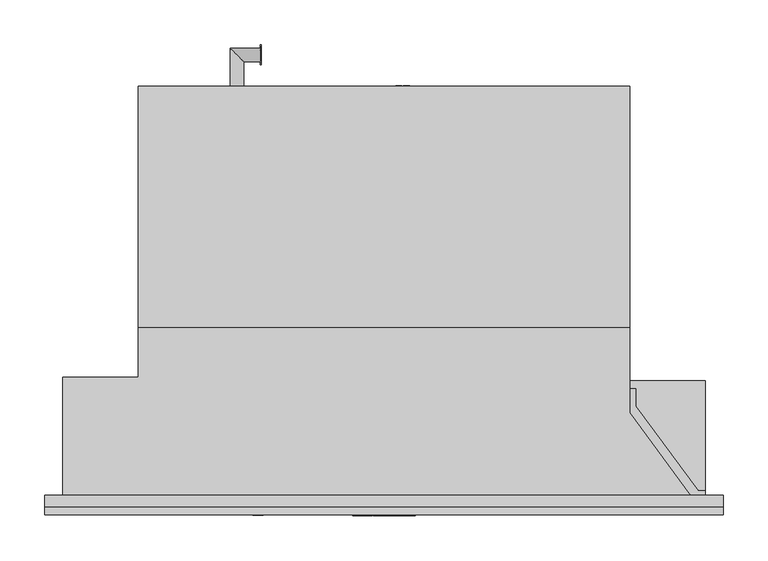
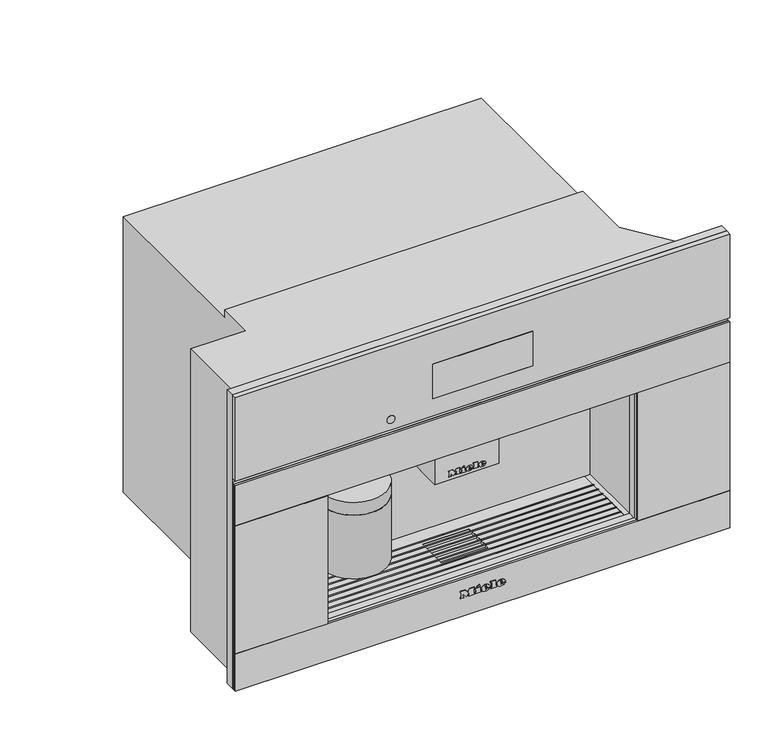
"""IFC4 building model written with IfcOpenShell, lengths in millimetres: proxy geometry, 12579040_USA_CVA7875_OBSWMATT : 29787521_USA_12579040_CVA7875_OBSWMATT."""

from ifc_helpers import new_model, si_unit, point, frame, frame_2d, origin, place, context, project, spatial, polyline, circle_curve, ellipse_curve, trimmed, segment, composite_curve, outline, extrude, faceted_brep, source, transform, mapped, element, save
from ifc_brep_helpers import plane_surface, cylinder_surface, revolved_surface, extruded_surface, advanced_brep


def specialty_equipment_d32c7e56(model_context):
    return source(origin(), model_context, "Body", "SolidModel", [
        extrude(outline(composite_curve([segment(trimmed(circle_curve(frame_2d((-14.0, 36.5)), 5.0), [point((-9.0, 36.5))], [point((-19.0, 36.5))], False, "CARTESIAN"), True, "CONTINUOUS"), segment(trimmed(circle_curve(frame_2d((-14.0, 36.5)), 5.0), [point((-19.0, 36.5))], [point((-9.0, 36.5))], False, "CARTESIAN"), True, "CONTINUOUS")], self_intersect=False)), frame((0.0, 0.0, 193.0), z_axis=(0.0, 0.0, 1.0), x_axis=(1.0, 0.0, 0.0)), (0.0, 0.0, 1.0), 5.0),
        extrude(outline(composite_curve([segment(trimmed(circle_curve(frame_2d((14.0, 36.5)), 5.0), [point((19.0, 36.5))], [point((9.0, 36.5))], False, "CARTESIAN"), True, "CONTINUOUS"), segment(trimmed(circle_curve(frame_2d((14.0, 36.5)), 5.0), [point((9.0, 36.5))], [point((19.0, 36.5))], False, "CARTESIAN"), True, "CONTINUOUS")], self_intersect=False)), frame((0.0, 0.0, 193.0), z_axis=(0.0, 0.0, 1.0), x_axis=(1.0, 0.0, 0.0)), (0.0, 0.0, 1.0), 5.0),
        extrude(outline(composite_curve([segment(trimmed(circle_curve(frame_2d((-156.5, 49.5)), 50.0), [point((-106.5, 49.5))], [point((-206.5, 49.5))], False, "CARTESIAN"), True, "CONTINUOUS"), segment(trimmed(circle_curve(frame_2d((-156.5, 49.5)), 50.0), [point((-206.5, 49.5))], [point((-106.5, 49.5))], False, "CARTESIAN"), True, "CONTINUOUS")], self_intersect=False)), frame((0.0, 0.0, 100.0), z_axis=(0.0, 0.0, 1.0), x_axis=(1.0, 0.0, 0.0)), (0.0, 0.0, 1.0), 103.0),
        extrude(outline(polyline([(-49.0, 95.0), (49.0, 95.0), (49.0, 20.0), (-49.0, 20.0), (-49.0, 95.0)])), frame((0.0, 0.0, 198.0), z_axis=(0.0, 0.0, 1.0), x_axis=(1.0, 0.0, 0.0)), (0.0, 0.0, 1.0), 75.0),
        extrude(outline(polyline([(479.0, 378.5), (479.0, -378.5), (4.0, -378.5), (4.0, 378.5), (479.0, 378.5)]), holes=[polyline([(273.0, 237.5), (63.0, 237.5), (63.0, -237.5), (273.0, -237.5), (273.0, 237.5)])]), frame((0.0, -13.0, 0.0), z_axis=(0.0, 1.0, 0.0), x_axis=(0.0, 0.0, 1.0)), (0.0, 0.0, 1.0), 13.0),
        extrude(outline(polyline([(281.0, 118.7), (281.0, 99.0591954), (350.457423, 4.7), (358.5, 4.7), (358.5, 0.0), (341.5, 0.0), (274.0, 91.7), (274.0, 118.7), (281.0, 118.7)])), frame((0.0, 0.0, 45.0), z_axis=(0.0, 0.0, 1.0), x_axis=(1.0, 0.0, 0.0)), (0.0, 0.0, 1.0), 34.0),
        faceted_brep([(-22.0, 400.0, 89.0), (35.0, 400.0, 66.0), (35.0, 456.0, 66.0), (-22.0, 456.0, 89.0), (-358.5, 0.0, 0.0), (-358.5, 0.0, 458.0), (-358.5, 131.7, 458.0), (-358.5, 131.7, 0.0), (237.5, 104.5, 273.0), (237.5, 104.5, 63.0), (237.5, 0.0, 63.0), (237.5, 0.0, 273.0), (229.5, 104.5, 62.0), (-229.5, 104.5, 62.0), (-229.5, 0.0, 62.0), (229.5, 0.0, 62.0), (-36.0, 76.0, 62.0), (36.0, 76.0, 62.0), (36.0, 25.0, 62.0), (-36.0, 25.0, 62.0), (229.5, 0.0, 63.0), (229.5, 104.5, 63.0), (-22.0, 400.0, 133.0), (55.0, 400.0, 133.0), (55.0, 400.0, 66.0), (-22.0, 456.0, 133.0), (55.0, 456.0, 133.0), (55.0, 456.0, 66.0), (358.5, 0.0, 0.0), (358.5, 127.7, 0.0), (358.5, 127.7, 45.0), (358.5, 0.0, 45.0), (-274.0, 131.7, 0.0), (-274.0, 456.0, 0.0), (274.0, 456.0, 0.0), (274.0, 127.7, 0.0), (274.0, 456.0, 446.0), (-274.0, 456.0, 446.0), (274.0, 187.0, 446.0), (-274.0, 187.0, 446.0), (274.0, 187.0, 458.0), (-274.0, 187.0, 458.0), (341.5, 0.0, 458.0), (274.0, 91.7, 458.0), (-274.0, 131.7, 458.0), (341.5, 0.0, 45.0), (-229.5, 0.0, 63.0), (-237.5, 0.0, 63.0), (-237.5, 0.0, 273.0), (-237.5, 104.5, 273.0), (-237.5, 104.5, 63.0), (-229.5, 104.5, 63.0), (36.0, 76.0, 58.0), (-36.0, 76.0, 58.0), (-36.0, 25.0, 58.0), (36.0, 25.0, 58.0), (274.0, 91.7, 45.0), (274.0, 127.7, 45.0)], [[[0, 1, 2, 3]], [[4, 5, 6, 7]], [[8, 9, 10, 11]], [[12, 13, 14, 15], [16, 17, 18, 19]], [[12, 15, 20, 21]], [[22, 23, 24, 1, 0]], [[23, 22, 25, 26]], [[24, 23, 26, 27]], [[1, 24, 27, 2]], [[22, 0, 3, 25]], [[28, 29, 30, 31]], [[28, 4, 7, 32, 33, 34, 35, 29]], [[36, 34, 33, 37], [26, 25, 3, 2, 27]], [[38, 36, 37, 39]], [[40, 38, 39, 41]], [[5, 42, 43, 40, 41, 44, 6]], [[5, 4, 28, 31, 45, 42], [11, 10, 20, 15, 14, 46, 47, 48]], [[8, 49, 50, 51, 13, 12, 21, 9]], [[10, 9, 21, 20]], [[50, 47, 46, 51]], [[50, 49, 48, 47]], [[49, 8, 11, 48]], [[14, 13, 51, 46]], [[52, 53, 54, 55]], [[53, 52, 17, 16]], [[54, 53, 16, 19]], [[55, 54, 19, 18]], [[52, 55, 18, 17]], [[35, 34, 36, 38, 40, 43, 56, 57]], [[29, 35, 57, 30]], [[57, 56, 45, 31, 30]], [[44, 32, 7, 6]], [[32, 44, 41, 39, 37, 33]], [[45, 56, 43, 42]]]),
        extrude(outline(polyline([(491.5420128, 22.0), (488.8025182, 32.045631), (490.0974628, 32.045631), (491.6867131, 25.4433755), (492.1772224, 23.4053092), (492.7020674, 25.207931), (494.6935352, 32.045631), (496.5599232, 32.045631), (498.0069257, 27.0890343), (499.0835937, 23.4053092), (499.5593878, 25.3845144), (501.1633533, 32.045631), (502.4582979, 32.045631), (499.7163507, 22.0), (498.3748077, 22.0), (495.9664069, 29.7500474), (495.630408, 30.8316204), (495.2527159, 29.5293182), (493.0576866, 22.0), (491.5420128, 22.0)])), frame((-138.0, 0.0, 0.0), z_axis=(1.0, 0.0, 0.0), x_axis=(0.0, 1.0, 0.0)), (0.0, 0.0, 1.0), 1.0),
        extrude(outline(polyline([(480.48348, 22.0), (480.48348, 32.045631), (481.7391839, 32.045631), (481.7391839, 27.128275), (486.8895318, 32.045631), (488.6455552, 32.045631), (484.3217155, 27.9155425), (488.8025182, 22.0), (487.267224, 22.0), (483.4314411, 27.0669613), (481.7391839, 25.4531857), (481.7391839, 22.0), (480.48348, 22.0)])), frame((-138.0, 0.0, 0.0), z_axis=(1.0, 0.0, 0.0), x_axis=(0.0, 1.0, 0.0)), (0.0, 0.0, 1.0), 1.0),
        advanced_brep(
        [(-156.5, 483.5, 27.0), (-171.5, 498.5, 27.0), (-138.0, 498.5, 27.0), (-138.0, 483.5, 27.0), (-156.5, 456.0, 27.0), (-171.5, 456.0, 27.0)],
        [
            (0, 1, ellipse_curve(frame((-164.0, 491.0, 27.0), z_axis=(0.707106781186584, 0.7071067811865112, 0.0), x_axis=(-0.7071067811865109, 0.7071067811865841, 0.0)), 10.6066017, 7.5)),
            (1, 2),
            (2, 3, circle_curve(frame((-138.0, 491.0, 27.0), z_axis=(-1.0, 0.0, 0.0), x_axis=(0.0, 1.0, 0.0)), 7.5)),
            (3, 0),
            (4, 5, circle_curve(frame((-164.0, 456.0, 27.0), z_axis=(0.0, 1.0, 0.0), x_axis=(-1.0, 0.0, 0.0)), 7.5)),
            (5, 1),
            (0, 4),
            (4, 5, circle_curve(frame((-164.0, 456.0, 27.0), z_axis=(0.0, -1.0, 0.0), x_axis=(-1.0, 0.0, 0.0)), 7.5)),
            (0, 1, ellipse_curve(frame((-164.0, 491.0, 27.0), z_axis=(-0.707106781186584, -0.7071067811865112, 0.0), x_axis=(0.7071067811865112, -0.7071067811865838, 0.0)), 10.6066017, 7.5)),
            (2, 3, circle_curve(frame((-138.0, 491.0, 27.0), z_axis=(1.0, 0.0, 0.0), x_axis=(0.0, 1.0, 0.0)), 7.5)),
        ],
        [
            cylinder_surface(frame((-164.0, 491.0, 27.0), z_axis=(-1.0, 0.0, 0.0), x_axis=(0.0, 1.0, 0.0)), 7.5),
            cylinder_surface(frame((-164.0, 456.0, 27.0), z_axis=(0.0, -1.0, 0.0), x_axis=(-1.0, 0.0, 0.0)), 7.5),
            plane_surface(frame((-164.0, 456.0, 27.0), z_axis=(0.0, -1.0, 0.0), x_axis=(0.0, 0.0, 1.0))),
            plane_surface(frame((-138.0, 491.0, 27.0), z_axis=(1.0, 0.0, 0.0), x_axis=(0.0, 0.0, 1.0))),
        ],
        [
            (0, [[1, 2, 3, 4]]),
            (1, [[5, 6, -1, 7]]),
            (2, [[8, -5]]),
            (1, [[-8, -7, 9, -6]]),
            (3, [[-3, 10]]),
            (0, [[-9, -4, -10, -2]]),
        ],
    ),
        extrude(outline(polyline([(99.0, 19.6163991), (109.045631, 19.6163991), (109.045631, 18.3606953), (100.2557039, 18.3606953), (100.2557039, 13.3378798), (99.0, 13.3378798), (99.0, 19.6163991)])), frame((0.0, 456.0, 0.0), z_axis=(0.0, 1.0, 0.0), x_axis=(0.0, 0.0, 1.0)), (0.0, 0.0, 1.0), 1.0),
        extrude(outline(polyline([(99.0, 28.8772152), (109.045631, 28.8772152), (109.045631, 21.6569179), (107.7899271, 21.6569179), (107.7899271, 27.6215114), (104.8076304, 27.6215114), (104.8076304, 21.9708439), (103.5519266, 21.9708439), (103.5519266, 27.6215114), (100.2557039, 27.6215114), (100.2557039, 21.499955), (99.0, 21.499955), (99.0, 28.8772152)])), frame((0.0, 456.0, 0.0), z_axis=(0.0, 1.0, 0.0), x_axis=(0.0, 0.0, 1.0)), (0.0, 0.0, 1.0), 1.0),
        advanced_brep(
        [(55.0, 425.5, 104.0), (55.0, 410.5, 104.0), (13.5, 410.5, 104.0), (28.5, 425.5, 104.0), (28.5, 456.0, 104.0), (13.5, 456.0, 104.0)],
        [
            (0, 1, circle_curve(frame((55.0, 418.0, 104.0), z_axis=(-1.0, 0.0, 0.0), x_axis=(0.0, -1.0, 0.0)), 7.5)),
            (1, 2),
            (2, 3, ellipse_curve(frame((21.0, 418.0, 104.0), z_axis=(0.7071067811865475, -0.7071067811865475, 0.0), x_axis=(0.7071067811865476, 0.7071067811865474, 0.0)), 10.6066017, 7.5)),
            (3, 0),
            (2, 3, ellipse_curve(frame((21.0, 418.0, 104.0), z_axis=(-0.7071067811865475, 0.7071067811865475, 0.0), x_axis=(-0.7071067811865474, -0.7071067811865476, 0.0)), 10.6066017, 7.5)),
            (3, 4),
            (4, 5, circle_curve(frame((21.0, 456.0, 104.0), z_axis=(0.0, -1.0, 0.0), x_axis=(-1.0, 0.0, 0.0)), 7.5)),
            (5, 2),
            (0, 1, circle_curve(frame((55.0, 418.0, 104.0), z_axis=(1.0, 0.0, 0.0), x_axis=(0.0, -1.0, 0.0)), 7.5)),
            (4, 5, circle_curve(frame((21.0, 456.0, 104.0), z_axis=(0.0, 1.0, 0.0), x_axis=(-1.0, 0.0, 0.0)), 7.5)),
        ],
        [
            cylinder_surface(frame((55.0, 418.0, 104.0), z_axis=(1.0, 0.0, 0.0), x_axis=(0.0, -1.0, 0.0)), 7.5),
            cylinder_surface(frame((21.0, 418.0, 104.0), z_axis=(0.0, -1.0, 0.0), x_axis=(-1.0, 0.0, 0.0)), 7.5),
            plane_surface(frame((55.0, 418.0, 104.0), z_axis=(1.0, 0.0, 0.0), x_axis=(0.0, 0.0, 1.0))),
            plane_surface(frame((21.0, 456.0, 104.0), z_axis=(0.0, 1.0, 0.0), x_axis=(0.0, 0.0, 1.0))),
        ],
        [
            (0, [[1, 2, 3, 4]]),
            (1, [[5, 6, 7, 8]]),
            (2, [[9, -1]]),
            (0, [[-9, -4, -5, -2]]),
            (3, [[10, -7]]),
            (1, [[-3, -8, -10, -6]]),
        ],
    ),
        advanced_brep(
        [(-106.5, 49.5, 203.0), (-206.5, 49.5, 203.0), (-156.5, 49.5, 203.0), (-106.5, 49.5, 223.5), (-206.5, 49.5, 223.5), (-110.0, 49.5, 252.0), (-203.0, 49.5, 252.0), (-110.0, 49.5, 273.0), (-203.0, 49.5, 273.0), (-156.5, 49.5, 273.0)],
        [
            (0, 1, circle_curve(frame((-156.5, 49.5, 203.0), z_axis=(0.0, 0.0, -1.0), x_axis=(-1.0, 0.0, 0.0)), 50.0)),
            (1, 2),
            (2, 0),
            (1, 0, circle_curve(frame((-156.5, 49.5, 203.0), z_axis=(0.0, 0.0, -1.0), x_axis=(-1.0, 0.0, 0.0)), 50.0)),
            (3, 4, circle_curve(frame((-156.5, 49.5, 223.5), z_axis=(0.0, 0.0, -1.0), x_axis=(-1.0, 0.0, 0.0)), 50.0)),
            (4, 1),
            (0, 3),
            (4, 3, circle_curve(frame((-156.5, 49.5, 223.5), z_axis=(0.0, 0.0, -1.0), x_axis=(-1.0, 0.0, 0.0)), 50.0)),
            (5, 6, circle_curve(frame((-156.5, 49.5, 252.0), z_axis=(0.0, 0.0, -1.0), x_axis=(-1.0, 0.0, 0.0)), 46.5)),
            (6, 4, circle_curve(frame((-206.7961166, 49.5, 238.0012775), z_axis=(0.0, 1.0, 0.0), x_axis=(-1.0, 0.0, 0.0)), 14.5043005)),
            (3, 5, circle_curve(frame((-106.2038834, 49.5, 238.0012775), z_axis=(0.0, 1.0, 0.0), x_axis=(1.0, 0.0, 0.0)), 14.5043005)),
            (6, 5, circle_curve(frame((-156.5, 49.5, 252.0), z_axis=(0.0, 0.0, -1.0), x_axis=(-1.0, 0.0, 0.0)), 46.5)),
            (7, 8, circle_curve(frame((-156.5, 49.5, 273.0), z_axis=(0.0, 0.0, -1.0), x_axis=(-1.0, 0.0, 0.0)), 46.5)),
            (8, 6),
            (5, 7),
            (8, 7, circle_curve(frame((-156.5, 49.5, 273.0), z_axis=(0.0, 0.0, -1.0), x_axis=(-1.0, 0.0, 0.0)), 46.5)),
            (9, 8),
            (7, 9),
        ],
        [
            plane_surface(frame((-156.5, 49.5, 203.0), z_axis=(0.0, 0.0, -1.0), x_axis=(-1.0, 0.0, 0.0))),
            cylinder_surface(frame((-156.5, 49.5, 388.7361736), z_axis=(0.0, 0.0, 1.0), x_axis=(-1.0, 0.0, 0.0)), 50.0),
            revolved_surface(trimmed(ellipse_curve(frame((-206.7961166, 49.5, 238.0012775), z_axis=(0.0, -1.0, 0.0), x_axis=(-1.0, 0.0, 0.0)), 14.5043005, 14.5043005), [point((-206.5, 49.5, 223.5))], [point((-203.0, 49.5, 252.0))], True, "CARTESIAN"), (-156.5, 49.5, 388.7361736), (0.0, 0.0, 1.0)),
            cylinder_surface(frame((-156.5, 49.5, 388.7361736), z_axis=(0.0, 0.0, 1.0), x_axis=(-1.0, 0.0, 0.0)), 46.5),
            plane_surface(frame((-156.5, 49.5, 273.0), z_axis=(0.0, 0.0, 1.0), x_axis=(-1.0, 0.0, 0.0))),
        ],
        [
            (0, [[1, 2, 3]]),
            (0, [[4, -3, -2]]),
            (1, [[5, 6, -1, 7]]),
            (1, [[8, -7, -4, -6]]),
            (2, [[9, 10, -5, 11]]),
            (2, [[12, -11, -8, -10]]),
            (3, [[13, 14, -9, 15]]),
            (3, [[16, -15, -12, -14]]),
            (4, [[17, -13, 18]]),
            (4, [[-18, -16, -17]]),
        ],
    ),
        faceted_brep([(229.5, 0.0, 62.0), (-229.5, 0.0, 62.0), (-229.5, 8.0, 62.0), (229.5, 8.0, 62.0), (-229.5, 104.5, 62.0), (229.5, 104.5, 62.0), (229.5, 82.0925571, 62.0), (-229.5, 82.0925571, 62.0), (36.0, 76.0, 62.0), (-36.0, 76.0, 62.0), (-36.0, 70.0550731, 62.0), (-229.5, 70.0550731, 62.0), (-229.5, 80.0925571, 62.0), (229.5, 80.0925571, 62.0), (229.5, 70.0550731, 62.0), (36.0, 70.0550731, 62.0), (-36.0, 25.0, 62.0), (36.0, 25.0, 62.0), (36.0, 31.9426212, 62.0), (229.5, 31.9426212, 62.0), (229.5, 21.9776522, 62.0), (-229.5, 21.9776522, 62.0), (-229.5, 31.9426212, 62.0), (-36.0, 31.9426212, 62.0), (229.5, 19.9776522, 62.0), (229.5, 10.0, 62.0), (-229.5, 10.0, 62.0), (-229.5, 19.9776522, 62.0), (229.5, 43.9801052, 62.0), (229.5, 33.9426212, 62.0), (36.0, 33.9426212, 62.0), (36.0, 43.9801052, 62.0), (229.5, 56.0175891, 62.0), (229.5, 45.9801052, 62.0), (36.0, 45.9801052, 62.0), (36.0, 56.0175891, 62.0), (229.5, 68.0550731, 62.0), (229.5, 58.0175891, 62.0), (36.0, 58.0175891, 62.0), (36.0, 68.0550731, 62.0), (-229.5, 33.9426212, 62.0), (-229.5, 43.9801052, 62.0), (-36.0, 43.9801052, 62.0), (-36.0, 33.9426212, 62.0), (-229.5, 45.9801052, 62.0), (-229.5, 56.0175891, 62.0), (-36.0, 56.0175891, 62.0), (-36.0, 45.9801052, 62.0), (-229.5, 58.0175891, 62.0), (-229.5, 68.0550731, 62.0), (-36.0, 68.0550731, 62.0), (-36.0, 58.0175891, 62.0), (229.5, 104.5, 63.0), (-229.5, 104.5, 63.0), (-229.5, 82.0925571, 63.0), (229.5, 82.0925571, 63.0), (-229.5, 0.0, 63.0), (229.5, 0.0, 63.0), (229.5, 8.0, 63.0), (-229.5, 8.0, 63.0), (-36.0, 76.0, 63.0), (36.0, 76.0, 63.0), (36.0, 70.0550731, 63.0), (229.5, 70.0550731, 63.0), (229.5, 80.0925571, 63.0), (-229.5, 80.0925571, 63.0), (-229.5, 70.0550731, 63.0), (-36.0, 70.0550731, 63.0), (36.0, 25.0, 63.0), (-36.0, 25.0, 63.0), (-36.0, 31.9426212, 63.0), (-229.5, 31.9426212, 63.0), (-229.5, 21.9776522, 63.0), (229.5, 21.9776522, 63.0), (229.5, 31.9426212, 63.0), (36.0, 31.9426212, 63.0), (-229.5, 19.9776522, 63.0), (-229.5, 10.0, 63.0), (229.5, 10.0, 63.0), (229.5, 19.9776522, 63.0), (-229.5, 43.9801052, 63.0), (-229.5, 33.9426212, 63.0), (-36.0, 33.9426212, 63.0), (-36.0, 43.9801052, 63.0), (-229.5, 56.0175891, 63.0), (-229.5, 45.9801052, 63.0), (-36.0, 45.9801052, 63.0), (-36.0, 56.0175891, 63.0), (-229.5, 68.0550731, 63.0), (-229.5, 58.0175891, 63.0), (-36.0, 58.0175891, 63.0), (-36.0, 68.0550731, 63.0), (229.5, 33.9426212, 63.0), (229.5, 43.9801052, 63.0), (36.0, 43.9801052, 63.0), (36.0, 33.9426212, 63.0), (229.5, 45.9801052, 63.0), (229.5, 56.0175891, 63.0), (36.0, 56.0175891, 63.0), (36.0, 45.9801052, 63.0), (229.5, 58.0175891, 63.0), (229.5, 68.0550731, 63.0), (36.0, 68.0550731, 63.0), (36.0, 58.0175891, 63.0), (-229.5, 82.0925571, 60.0), (-229.5, 80.0925571, 60.0), (-229.5, 70.0550731, 60.0), (-229.5, 68.0550731, 60.0), (-229.5, 58.0175891, 60.0), (-229.5, 56.0175891, 60.0), (-229.5, 45.9801052, 60.0), (-229.5, 43.9801052, 60.0), (-229.5, 33.9426212, 60.0), (-229.5, 31.9426212, 60.0), (-229.5, 21.9776522, 60.0), (-229.5, 19.9776522, 60.0), (-229.5, 10.0, 60.0), (-229.5, 8.0, 60.0), (-229.5, 8.0, 63.5), (-229.5, 10.0, 63.5), (-229.5, 19.9776522, 63.5), (-229.5, 21.9776522, 63.5), (-229.5, 31.9426212, 63.5), (-229.5, 33.9426212, 63.5), (-229.5, 43.9801052, 63.5), (-229.5, 45.9801052, 63.5), (-229.5, 56.0175891, 63.5), (-229.5, 58.0175891, 63.5), (-229.5, 68.0550731, 63.5), (-229.5, 70.0550731, 63.5), (-229.5, 80.0925571, 63.5), (-229.5, 82.0925571, 63.5), (229.5, 82.0925571, 63.5), (229.5, 80.0925571, 63.5), (229.5, 70.0550731, 63.5), (229.5, 68.0550731, 63.5), (229.5, 58.0175891, 63.5), (229.5, 56.0175891, 63.5), (229.5, 45.9801052, 63.5), (229.5, 43.9801052, 63.5), (229.5, 33.9426212, 63.5), (229.5, 31.9426212, 63.5), (229.5, 21.9776522, 63.5), (229.5, 19.9776522, 63.5), (229.5, 10.0, 63.5), (229.5, 8.0, 63.5), (229.5, 8.0, 60.0), (229.5, 10.0, 60.0), (229.5, 19.9776522, 60.0), (229.5, 21.9776522, 60.0), (229.5, 31.9426212, 60.0), (229.5, 33.9426212, 60.0), (229.5, 43.9801052, 60.0), (229.5, 45.9801052, 60.0), (229.5, 56.0175891, 60.0), (229.5, 58.0175891, 60.0), (229.5, 68.0550731, 60.0), (229.5, 70.0550731, 60.0), (229.5, 80.0925571, 60.0), (229.5, 82.0925571, 60.0)], [[[0, 1, 2, 3]], [[4, 5, 6, 7]], [[8, 9, 10, 11, 12, 13, 14, 15]], [[16, 17, 18, 19, 20, 21, 22, 23]], [[24, 25, 26, 27]], [[28, 29, 30, 31]], [[32, 33, 34, 35]], [[36, 37, 38, 39]], [[40, 41, 42, 43]], [[44, 45, 46, 47]], [[48, 49, 50, 51]], [[52, 53, 54, 55]], [[56, 57, 58, 59]], [[60, 61, 62, 63, 64, 65, 66, 67]], [[68, 69, 70, 71, 72, 73, 74, 75]], [[76, 77, 78, 79]], [[80, 81, 82, 83]], [[84, 85, 86, 87]], [[88, 89, 90, 91]], [[92, 93, 94, 95]], [[96, 97, 98, 99]], [[100, 101, 102, 103]], [[5, 4, 53, 52]], [[53, 4, 7, 104, 105, 12, 11, 106, 107, 49, 48, 108, 109, 45, 44, 110, 111, 41, 40, 112, 113, 22, 21, 114, 115, 27, 26, 116, 117, 2, 1, 56, 59, 118, 119, 77, 76, 120, 121, 72, 71, 122, 123, 81, 80, 124, 125, 85, 84, 126, 127, 89, 88, 128, 129, 66, 65, 130, 131, 54]], [[1, 0, 57, 56]], [[5, 52, 55, 132, 133, 64, 63, 134, 135, 101, 100, 136, 137, 97, 96, 138, 139, 93, 92, 140, 141, 74, 73, 142, 143, 79, 78, 144, 145, 58, 57, 0, 3, 146, 147, 25, 24, 148, 149, 20, 19, 150, 151, 29, 28, 152, 153, 33, 32, 154, 155, 37, 36, 156, 157, 14, 13, 158, 159, 6]], [[8, 61, 60, 9]], [[43, 42, 83, 82]], [[47, 46, 87, 86]], [[51, 50, 91, 90]], [[9, 60, 67, 10]], [[69, 16, 23, 70]], [[16, 69, 68, 17]], [[31, 30, 95, 94]], [[35, 34, 99, 98]], [[39, 38, 103, 102]], [[61, 8, 15, 62]], [[17, 68, 75, 18]], [[147, 146, 117, 116]], [[149, 148, 115, 114]], [[151, 150, 113, 112]], [[153, 152, 111, 110]], [[155, 154, 109, 108]], [[157, 156, 107, 106]], [[159, 158, 105, 104]], [[144, 119, 118, 145]], [[142, 121, 120, 143]], [[140, 123, 122, 141]], [[138, 125, 124, 139]], [[136, 127, 126, 137]], [[134, 129, 128, 135]], [[132, 131, 130, 133]], [[147, 116, 26, 25]], [[119, 144, 78, 77]], [[117, 146, 3, 2]], [[145, 118, 59, 58]], [[149, 114, 21, 20]], [[121, 142, 73, 72]], [[115, 148, 24, 27]], [[143, 120, 76, 79]], [[151, 112, 40, 43, 82, 81, 123, 140, 92, 95, 30, 29]], [[113, 150, 19, 18, 75, 74, 141, 122, 71, 70, 23, 22]], [[153, 110, 44, 47, 86, 85, 125, 138, 96, 99, 34, 33]], [[111, 152, 28, 31, 94, 93, 139, 124, 80, 83, 42, 41]], [[155, 108, 48, 51, 90, 89, 127, 136, 100, 103, 38, 37]], [[109, 154, 32, 35, 98, 97, 137, 126, 84, 87, 46, 45]], [[157, 106, 11, 10, 67, 66, 129, 134, 63, 62, 15, 14]], [[107, 156, 36, 39, 102, 101, 135, 128, 88, 91, 50, 49]], [[159, 104, 7, 6]], [[131, 132, 55, 54]], [[105, 158, 13, 12]], [[133, 130, 65, 64]]]),
        advanced_brep(
        [(27.088, -23.0, 36.7018), (27.088, -23.0, 37.8532), (34.7146, -23.0, 37.8532), (21.445, -23.0, 37.8532), (24.58, -23.0, 34.0), (34.5208, -23.0, 36.7018), (31.078, -23.0, 36.7018), (28.3648, -23.0, 35.425), (27.088, -23.0, 39.3124), (27.088, -23.0, 40.555), (29.0374, -23.0, 40.555), (29.0374, -23.0, 39.3124), (27.088, -22.0, 36.7018), (28.3648, -22.0, 35.425), (31.078, -22.0, 36.7018), (34.5208, -22.0, 36.7018), (24.58, -22.0, 34.0), (21.445, -22.0, 37.8532), (34.7146, -22.0, 37.8532), (27.088, -22.0, 37.8532), (27.088, -22.0, 39.3124), (29.0374, -22.0, 39.3124), (29.0374, -22.0, 40.555), (27.088, -22.0, 40.555)],
        [
            (0, 1),
            (1, 2),
            (2, 3, ellipse_curve(frame((28.0798, -23.0, 37.8532), z_axis=(0.0, -1.0, 0.0), x_axis=(-1.0, 0.0, 0.0)), 6.6348, 5.4834)),
            (3, 4, circle_curve(frame((25.8568622, -23.0, 38.2408), z_axis=(0.0, -1.0, 0.0), x_axis=(0.0, 0.0, -1.0)), 4.4288556)),
            (4, 5, circle_curve(frame((27.9469808, -23.0, 41.2504), z_axis=(0.0, -1.0, 0.0), x_axis=(0.0, 0.0, -1.0)), 7.9940516)),
            (5, 6),
            (6, 7, circle_curve(frame((28.9220588, -23.0, 37.762), z_axis=(0.0, 1.0, 0.0), x_axis=(0.0, 0.0, -1.0)), 2.4025208)),
            (7, 0, circle_curve(frame((28.3648, -23.0, 36.7018), z_axis=(0.0, 1.0, 0.0), x_axis=(0.0, 0.0, -1.0)), 1.2768)),
            (8, 9),
            (9, 10, circle_curve(frame((28.0627, -23.0, 40.555), z_axis=(0.0, 1.0, 0.0), x_axis=(0.0, 0.0, -1.0)), 0.9747)),
            (10, 11),
            (11, 8),
            (12, 13, circle_curve(frame((28.3648, -22.0, 36.7018), z_axis=(0.0, -1.0, 0.0), x_axis=(0.0, 0.0, -1.0)), 1.2768)),
            (13, 14, circle_curve(frame((28.9220588, -22.0, 37.762), z_axis=(0.0, -1.0, 0.0), x_axis=(0.0, 0.0, -1.0)), 2.4025208)),
            (14, 15),
            (15, 16, circle_curve(frame((27.9469808, -22.0, 41.2504), z_axis=(0.0, 1.0, 0.0), x_axis=(0.0, 0.0, -1.0)), 7.9940516)),
            (16, 17, circle_curve(frame((25.8568622, -22.0, 38.2408), z_axis=(0.0, 1.0, 0.0), x_axis=(0.0, 0.0, -1.0)), 4.4288556)),
            (17, 18, ellipse_curve(frame((28.0798, -22.0, 37.8532), z_axis=(0.0, 1.0, 0.0), x_axis=(-1.0, 0.0, 0.0)), 6.6348, 5.4834)),
            (18, 19),
            (19, 12),
            (20, 21),
            (21, 22),
            (22, 23, circle_curve(frame((28.0627, -22.0, 40.555), z_axis=(0.0, -1.0, 0.0), x_axis=(0.0, 0.0, -1.0)), 0.9747)),
            (23, 20),
            (0, 12),
            (19, 1),
            (18, 2),
            (5, 15),
            (14, 6),
            (17, 3),
            (13, 7),
            (16, 4),
            (8, 20),
            (23, 9),
            (22, 10),
            (21, 11),
        ],
        [
            plane_surface(frame((27.088, -23.0, 37.8532), z_axis=(0.0, -1.0, 0.0), x_axis=(0.0, 0.0, 1.0))),
            plane_surface(frame((27.088, -22.0, 37.8532), z_axis=(0.0, 1.0, 0.0), x_axis=(0.0, 0.0, -1.0))),
            plane_surface(frame((27.088, -23.0, 36.7018), z_axis=(1.0, 0.0, 0.0), x_axis=(0.0, 1.0, 0.0))),
            plane_surface(frame((27.088, -23.0, 37.8532), z_axis=(0.0, 0.0, -1.0), x_axis=(0.0, 1.0, 0.0))),
            plane_surface(frame((34.5208, -23.0, 36.7018), z_axis=(0.0, 0.0, 1.0), x_axis=(0.0, 1.0, 0.0))),
            extruded_surface(trimmed(ellipse_curve(frame((28.0798, -21.0, 37.8532), z_axis=(0.0, -1.0, 0.0), x_axis=(-1.0, 0.0, 0.0)), 6.6348, 5.4834), [point((34.7146, -21.0, 37.8532))], [point((21.445, -21.0, 37.8532))], True, "CARTESIAN"), (0.0, -1.0, 0.0), 1.0),
            revolved_surface(polyline([(28.9220588, -22.0, 35.3594792), (28.9220588, -23.0, 35.3594792)]), (28.9220588, -22.0, 37.762), (0.0, 1.0, 0.0)),
            revolved_surface(polyline([(28.3648, -22.0, 35.425), (28.3648, -23.0, 35.425)]), (28.3648, -22.0, 36.7018), (0.0, 1.0, 0.0)),
            cylinder_surface(frame((25.8568622, -22.0, 38.2408), z_axis=(0.0, -1.0, 0.0), x_axis=(0.0, 0.0, -1.0)), 4.4288556),
            cylinder_surface(frame((27.9469808, -22.0, 41.2504), z_axis=(0.0, -1.0, 0.0), x_axis=(0.0, 0.0, -1.0)), 7.9940516),
            plane_surface(frame((27.088, -23.0, 39.3124), z_axis=(1.0, 0.0, 0.0), x_axis=(0.0, 1.0, 0.0))),
            revolved_surface(polyline([(28.0627, -22.0, 39.5803), (28.0627, -23.0, 39.5803)]), (28.0627, -22.0, 40.555), (0.0, 1.0, 0.0)),
            plane_surface(frame((29.0374, -23.0, 40.555), z_axis=(-1.0, 0.0, 0.0), x_axis=(0.0, 1.0, 0.0))),
            plane_surface(frame((29.0374, -23.0, 39.3124), z_axis=(0.0, 0.0, 1.0), x_axis=(0.0, 1.0, 0.0))),
        ],
        [
            (0, [[1, 2, 3, 4, 5, 6, 7, 8], [9, 10, 11, 12]]),
            (1, [[13, 14, 15, 16, 17, 18, 19, 20], [21, 22, 23, 24]]),
            (2, [[-1, 25, -20, 26]]),
            (3, [[-2, -26, -19, 27]]),
            (4, [[-6, 28, -15, 29]]),
            (5, [[-3, -27, -18, 30]]),
            (6, [[-7, -29, -14, 31]]),
            (7, [[-8, -31, -13, -25]]),
            (8, [[-4, -30, -17, 32]]),
            (9, [[-5, -32, -16, -28]]),
            (10, [[-9, 33, -24, 34]]),
            (11, [[-10, -34, -23, 35]]),
            (12, [[-11, -35, -22, 36]]),
            (13, [[-12, -36, -21, -33]]),
        ],
    ),
        advanced_brep(
        [(3.2962, -23.0, 36.7018), (3.2962, -23.0, 37.8532), (10.9228, -23.0, 37.8532), (-2.3468, -23.0, 37.8532), (0.7882, -23.0, 34.0), (10.729, -23.0, 36.7018), (7.2862, -23.0, 36.7018), (4.573, -23.0, 35.425), (3.2962, -23.0, 39.3124), (3.2962, -23.0, 40.555), (5.2456, -23.0, 40.555), (5.2456, -23.0, 39.3124), (3.2962, -22.0, 36.7018), (4.573, -22.0, 35.425), (7.2862, -22.0, 36.7018), (10.729, -22.0, 36.7018), (0.7882, -22.0, 34.0), (-2.3468, -22.0, 37.8532), (10.9228, -22.0, 37.8532), (3.2962, -22.0, 37.8532), (3.2962, -22.0, 39.3124), (5.2456, -22.0, 39.3124), (5.2456, -22.0, 40.555), (3.2962, -22.0, 40.555)],
        [
            (0, 1),
            (1, 2),
            (2, 3, ellipse_curve(frame((4.288, -23.0, 37.8532), z_axis=(0.0, -1.0, 0.0), x_axis=(-1.0, 0.0, 0.0)), 6.6348, 5.4834)),
            (3, 4, circle_curve(frame((2.0650622, -23.0, 38.2408), z_axis=(0.0, -1.0, 0.0), x_axis=(0.0, 0.0, -1.0)), 4.4288556)),
            (4, 5, circle_curve(frame((4.1551808, -23.0, 41.2504), z_axis=(0.0, -1.0, 0.0), x_axis=(0.0, 0.0, -1.0)), 7.9940516)),
            (5, 6),
            (6, 7, circle_curve(frame((5.1302588, -23.0, 37.762), z_axis=(0.0, 1.0, 0.0), x_axis=(0.0, 0.0, -1.0)), 2.4025208)),
            (7, 0, circle_curve(frame((4.573, -23.0, 36.7018), z_axis=(0.0, 1.0, 0.0), x_axis=(0.0, 0.0, -1.0)), 1.2768)),
            (8, 9),
            (9, 10, circle_curve(frame((4.2709, -23.0, 40.555), z_axis=(0.0, 1.0, 0.0), x_axis=(0.0, 0.0, -1.0)), 0.9747)),
            (10, 11),
            (11, 8),
            (12, 13, circle_curve(frame((4.573, -22.0, 36.7018), z_axis=(0.0, -1.0, 0.0), x_axis=(0.0, 0.0, -1.0)), 1.2768)),
            (13, 14, circle_curve(frame((5.1302588, -22.0, 37.762), z_axis=(0.0, -1.0, 0.0), x_axis=(0.0, 0.0, -1.0)), 2.4025208)),
            (14, 15),
            (15, 16, circle_curve(frame((4.1551808, -22.0, 41.2504), z_axis=(0.0, 1.0, 0.0), x_axis=(0.0, 0.0, -1.0)), 7.9940516)),
            (16, 17, circle_curve(frame((2.0650622, -22.0, 38.2408), z_axis=(0.0, 1.0, 0.0), x_axis=(0.0, 0.0, -1.0)), 4.4288556)),
            (17, 18, ellipse_curve(frame((4.288, -22.0, 37.8532), z_axis=(0.0, 1.0, 0.0), x_axis=(-1.0, 0.0, 0.0)), 6.6348, 5.4834)),
            (18, 19),
            (19, 12),
            (20, 21),
            (21, 22),
            (22, 23, circle_curve(frame((4.2709, -22.0, 40.555), z_axis=(0.0, -1.0, 0.0), x_axis=(0.0, 0.0, -1.0)), 0.9747)),
            (23, 20),
            (0, 12),
            (19, 1),
            (18, 2),
            (5, 15),
            (14, 6),
            (17, 3),
            (13, 7),
            (16, 4),
            (8, 20),
            (23, 9),
            (22, 10),
            (21, 11),
        ],
        [
            plane_surface(frame((3.2962, -23.0, 37.8532), z_axis=(0.0, -1.0, 0.0), x_axis=(0.0, 0.0, 1.0))),
            plane_surface(frame((3.2962, -22.0, 37.8532), z_axis=(0.0, 1.0, 0.0), x_axis=(0.0, 0.0, -1.0))),
            plane_surface(frame((3.2962, -23.0, 36.7018), z_axis=(1.0, 0.0, 0.0), x_axis=(0.0, 1.0, 0.0))),
            plane_surface(frame((3.2962, -23.0, 37.8532), z_axis=(0.0, 0.0, -1.0), x_axis=(0.0, 1.0, 0.0))),
            plane_surface(frame((10.729, -23.0, 36.7018), z_axis=(0.0, 0.0, 1.0), x_axis=(0.0, 1.0, 0.0))),
            extruded_surface(trimmed(ellipse_curve(frame((4.288, -21.0, 37.8532), z_axis=(0.0, -1.0, 0.0), x_axis=(-1.0, 0.0, 0.0)), 6.6348, 5.4834), [point((10.9228, -21.0, 37.8532))], [point((-2.3468, -21.0, 37.8532))], True, "CARTESIAN"), (0.0, -1.0, 0.0), 1.0),
            revolved_surface(polyline([(5.1302588, -22.0, 35.3594792), (5.1302588, -23.0, 35.3594792)]), (5.1302588, -22.0, 37.762), (0.0, 1.0, 0.0)),
            revolved_surface(polyline([(4.573, -22.0, 35.425), (4.573, -23.0, 35.425)]), (4.573, -22.0, 36.7018), (0.0, 1.0, 0.0)),
            cylinder_surface(frame((2.0650622, -22.0, 38.2408), z_axis=(0.0, -1.0, 0.0), x_axis=(0.0, 0.0, -1.0)), 4.4288556),
            cylinder_surface(frame((4.1551808, -22.0, 41.2504), z_axis=(0.0, -1.0, 0.0), x_axis=(0.0, 0.0, -1.0)), 7.9940516),
            plane_surface(frame((3.2962, -23.0, 39.3124), z_axis=(1.0, 0.0, 0.0), x_axis=(0.0, 1.0, 0.0))),
            revolved_surface(polyline([(4.2709, -22.0, 39.5803), (4.2709, -23.0, 39.5803)]), (4.2709, -22.0, 40.555), (0.0, 1.0, 0.0)),
            plane_surface(frame((5.2456, -23.0, 40.555), z_axis=(-1.0, 0.0, 0.0), x_axis=(0.0, 1.0, 0.0))),
            plane_surface(frame((5.2456, -23.0, 39.3124), z_axis=(0.0, 0.0, 1.0), x_axis=(0.0, 1.0, 0.0))),
        ],
        [
            (0, [[1, 2, 3, 4, 5, 6, 7, 8], [9, 10, 11, 12]]),
            (1, [[13, 14, 15, 16, 17, 18, 19, 20], [21, 22, 23, 24]]),
            (2, [[-1, 25, -20, 26]]),
            (3, [[-2, -26, -19, 27]]),
            (4, [[-6, 28, -15, 29]]),
            (5, [[-3, -27, -18, 30]]),
            (6, [[-7, -29, -14, 31]]),
            (7, [[-8, -31, -13, -25]]),
            (8, [[-4, -30, -17, 32]]),
            (9, [[-5, -32, -16, -28]]),
            (10, [[-9, 33, -24, 34]]),
            (11, [[-10, -34, -23, 35]]),
            (12, [[-11, -35, -22, 36]]),
            (13, [[-12, -36, -21, -33]]),
        ],
    ),
        extrude(outline(polyline([(44.7274, -9.164), (42.8806, -8.2976), (44.6818, -4.433), (46.5286, -5.288), (44.7274, -9.164)])), frame((0.0, -23.0, 0.0), z_axis=(0.0, 1.0, 0.0), x_axis=(0.0, 0.0, 1.0)), (0.0, 0.0, 1.0), 1.0),
        extrude(outline(polyline([(42.6298, -11.9798), (40.5892, -11.9798), (40.5892, -10.6232), (35.9152, -10.6232), (35.9152, -11.9798), (34.0, -11.9798), (34.0, -2.9852), (35.9152, -2.9852), (35.9152, -4.3076), (42.6298, -4.3076), (42.6298, -11.9798)])), frame((0.0, -23.0, 0.0), z_axis=(0.0, 1.0, 0.0), x_axis=(0.0, 0.0, 1.0)), (0.0, 0.0, 1.0), 1.0),
        extrude(outline(polyline([(43.5418, 11.5612), (43.5418, 12.9292), (35.9152, 12.9292), (35.9152, 11.5612), (34.0, 11.5612), (34.0, 20.8066), (35.9152, 20.8066), (35.9152, 19.4044), (45.4, 19.4044), (45.4, 11.5612), (43.5418, 11.5612)])), frame((0.0, -23.0, 0.0), z_axis=(0.0, 1.0, 0.0), x_axis=(0.0, 0.0, 1.0)), (0.0, 0.0, 1.0), 1.0),
        extrude(outline(polyline([(43.5418, -34.7), (43.5418, -33.3206), (35.9152, -33.3206), (35.9152, -34.7), (34.0, -34.7), (34.0, -29.684), (35.9152, -29.684), (35.9152, -31.052), (40.7429247, -31.052), (34.0, -25.9562), (40.9402223, -20.8376), (35.9152, -20.8376), (35.9152, -22.2398), (34.0, -22.2398), (34.0, -13.1426), (35.9152, -13.1426), (35.9152, -14.5904), (43.5418, -14.5904), (43.5418, -13.1426), (45.4, -13.1426), (45.4, -20.0852), (41.125, -23.414), (45.4, -26.7542), (45.4, -34.7), (43.5418, -34.7)])), frame((0.0, -23.0, 0.0), z_axis=(0.0, 1.0, 0.0), x_axis=(0.0, 0.0, 1.0)), (0.0, 0.0, 1.0), 1.0),
        advanced_brep(
        [(22.348, 19.0, 205.5278), (22.348, 19.0, 206.4772), (28.6366, 19.0, 206.4772), (17.695, 19.0, 206.4772), (20.28, 19.0, 203.3), (28.4768, 19.0, 205.5278), (25.638, 19.0, 205.5278), (23.4008, 19.0, 204.475), (22.348, 19.0, 207.6804), (22.348, 19.0, 208.705), (23.9554, 19.0, 208.705), (23.9554, 19.0, 207.6804), (22.348, 20.0, 205.5278), (23.4008, 20.0, 204.475), (25.638, 20.0, 205.5278), (28.4768, 20.0, 205.5278), (20.28, 20.0, 203.3), (17.695, 20.0, 206.4772), (28.6366, 20.0, 206.4772), (22.348, 20.0, 206.4772), (22.348, 20.0, 207.6804), (23.9554, 20.0, 207.6804), (23.9554, 20.0, 208.705), (22.348, 20.0, 208.705)],
        [
            (0, 1),
            (1, 2),
            (2, 3, ellipse_curve(frame((23.1658, 19.0, 206.4772), z_axis=(0.0, -1.0, 0.0), x_axis=(-1.0, 0.0, 0.0)), 5.4708, 4.5214)),
            (3, 4, circle_curve(frame((21.3328513, 19.0, 206.7968), z_axis=(0.0, -1.0, 0.0), x_axis=(0.0, 0.0, -1.0)), 3.6518634)),
            (4, 5, circle_curve(frame((23.0562825, 19.0, 209.2784), z_axis=(0.0, -1.0, 0.0), x_axis=(0.0, 0.0, -1.0)), 6.5915864)),
            (5, 6),
            (6, 7, circle_curve(frame((23.8602941, 19.0, 206.402), z_axis=(0.0, 1.0, 0.0), x_axis=(0.0, 0.0, -1.0)), 1.981026)),
            (7, 0, circle_curve(frame((23.4008, 19.0, 205.5278), z_axis=(0.0, 1.0, 0.0), x_axis=(0.0, 0.0, -1.0)), 1.0528)),
            (8, 9),
            (9, 10, circle_curve(frame((23.1517, 19.0, 208.705), z_axis=(0.0, 1.0, 0.0), x_axis=(0.0, 0.0, -1.0)), 0.8037)),
            (10, 11),
            (11, 8),
            (12, 13, circle_curve(frame((23.4008, 20.0, 205.5278), z_axis=(0.0, -1.0, 0.0), x_axis=(0.0, 0.0, -1.0)), 1.0528)),
            (13, 14, circle_curve(frame((23.8602941, 20.0, 206.402), z_axis=(0.0, -1.0, 0.0), x_axis=(0.0, 0.0, -1.0)), 1.981026)),
            (14, 15),
            (15, 16, circle_curve(frame((23.0562825, 20.0, 209.2784), z_axis=(0.0, 1.0, 0.0), x_axis=(0.0, 0.0, -1.0)), 6.5915864)),
            (16, 17, circle_curve(frame((21.3328513, 20.0, 206.7968), z_axis=(0.0, 1.0, 0.0), x_axis=(0.0, 0.0, -1.0)), 3.6518634)),
            (17, 18, ellipse_curve(frame((23.1658, 20.0, 206.4772), z_axis=(0.0, 1.0, 0.0), x_axis=(-1.0, 0.0, 0.0)), 5.4708, 4.5214)),
            (18, 19),
            (19, 12),
            (20, 21),
            (21, 22),
            (22, 23, circle_curve(frame((23.1517, 20.0, 208.705), z_axis=(0.0, -1.0, 0.0), x_axis=(0.0, 0.0, -1.0)), 0.8037)),
            (23, 20),
            (0, 12),
            (19, 1),
            (18, 2),
            (5, 15),
            (14, 6),
            (17, 3),
            (13, 7),
            (16, 4),
            (8, 20),
            (23, 9),
            (22, 10),
            (21, 11),
        ],
        [
            plane_surface(frame((22.348, 19.0, 206.4772), z_axis=(0.0, -1.0, 0.0), x_axis=(0.0, 0.0, 1.0))),
            plane_surface(frame((22.348, 20.0, 206.4772), z_axis=(0.0, 1.0, 0.0), x_axis=(0.0, 0.0, -1.0))),
            plane_surface(frame((22.348, 19.0, 205.5278), z_axis=(1.0, 0.0, 0.0), x_axis=(0.0, 1.0, 0.0))),
            plane_surface(frame((22.348, 19.0, 206.4772), z_axis=(0.0, 0.0, -1.0), x_axis=(0.0, 1.0, 0.0))),
            plane_surface(frame((28.4768, 19.0, 205.5278), z_axis=(0.0, 0.0, 1.0), x_axis=(0.0, 1.0, 0.0))),
            extruded_surface(trimmed(ellipse_curve(frame((23.1658, 21.0, 206.4772), z_axis=(0.0, -1.0, 0.0), x_axis=(-1.0, 0.0, 0.0)), 5.4708, 4.5214), [point((28.6366, 21.0, 206.4772))], [point((17.695, 21.0, 206.4772))], True, "CARTESIAN"), (0.0, -1.0, 0.0), 1.0),
            revolved_surface(polyline([(23.8602941, 20.0, 204.420974), (23.8602941, 19.0, 204.420974)]), (23.8602941, 20.0, 206.402), (0.0, 1.0, 0.0)),
            revolved_surface(polyline([(23.4008, 20.0, 204.47500000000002), (23.4008, 19.0, 204.47500000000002)]), (23.4008, 20.0, 205.5278), (0.0, 1.0, 0.0)),
            cylinder_surface(frame((21.3328513, 20.0, 206.7968), z_axis=(0.0, -1.0, 0.0), x_axis=(0.0, 0.0, -1.0)), 3.6518634),
            cylinder_surface(frame((23.0562825, 20.0, 209.2784), z_axis=(0.0, -1.0, 0.0), x_axis=(0.0, 0.0, -1.0)), 6.5915864),
            plane_surface(frame((22.348, 19.0, 207.6804), z_axis=(1.0, 0.0, 0.0), x_axis=(0.0, 1.0, 0.0))),
            revolved_surface(polyline([(23.1517, 20.0, 207.90130000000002), (23.1517, 19.0, 207.90130000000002)]), (23.1517, 20.0, 208.705), (0.0, 1.0, 0.0)),
            plane_surface(frame((23.9554, 19.0, 208.705), z_axis=(-1.0, 0.0, 0.0), x_axis=(0.0, 1.0, 0.0))),
            plane_surface(frame((23.9554, 19.0, 207.6804), z_axis=(0.0, 0.0, 1.0), x_axis=(0.0, 1.0, 0.0))),
        ],
        [
            (0, [[1, 2, 3, 4, 5, 6, 7, 8], [9, 10, 11, 12]]),
            (1, [[13, 14, 15, 16, 17, 18, 19, 20], [21, 22, 23, 24]]),
            (2, [[-1, 25, -20, 26]]),
            (3, [[-2, -26, -19, 27]]),
            (4, [[-6, 28, -15, 29]]),
            (5, [[-3, -27, -18, 30]]),
            (6, [[-7, -29, -14, 31]]),
            (7, [[-8, -31, -13, -25]]),
            (8, [[-4, -30, -17, 32]]),
            (9, [[-5, -32, -16, -28]]),
            (10, [[-9, 33, -24, 34]]),
            (11, [[-10, -34, -23, 35]]),
            (12, [[-11, -35, -22, 36]]),
            (13, [[-12, -36, -21, -33]]),
        ],
    ),
        advanced_brep(
        [(2.7302, 19.0, 205.5278), (2.7302, 19.0, 206.4772), (9.0188, 19.0, 206.4772), (-1.9228, 19.0, 206.4772), (0.6622, 19.0, 203.3), (8.859, 19.0, 205.5278), (6.0202, 19.0, 205.5278), (3.783, 19.0, 204.475), (2.7302, 19.0, 207.6804), (2.7302, 19.0, 208.705), (4.3376, 19.0, 208.705), (4.3376, 19.0, 207.6804), (2.7302, 20.0, 205.5278), (3.783, 20.0, 204.475), (6.0202, 20.0, 205.5278), (8.859, 20.0, 205.5278), (0.6622, 20.0, 203.3), (-1.9228, 20.0, 206.4772), (9.0188, 20.0, 206.4772), (2.7302, 20.0, 206.4772), (2.7302, 20.0, 207.6804), (4.3376, 20.0, 207.6804), (4.3376, 20.0, 208.705), (2.7302, 20.0, 208.705)],
        [
            (0, 1),
            (1, 2),
            (2, 3, ellipse_curve(frame((3.548, 19.0, 206.4772), z_axis=(0.0, -1.0, 0.0), x_axis=(-1.0, 0.0, 0.0)), 5.4708, 4.5214)),
            (3, 4, circle_curve(frame((1.7150513, 19.0, 206.7968), z_axis=(0.0, -1.0, 0.0), x_axis=(0.0, 0.0, -1.0)), 3.6518634)),
            (4, 5, circle_curve(frame((3.4384825, 19.0, 209.2784), z_axis=(0.0, -1.0, 0.0), x_axis=(0.0, 0.0, -1.0)), 6.5915864)),
            (5, 6),
            (6, 7, circle_curve(frame((4.2424941, 19.0, 206.402), z_axis=(0.0, 1.0, 0.0), x_axis=(0.0, 0.0, -1.0)), 1.981026)),
            (7, 0, circle_curve(frame((3.783, 19.0, 205.5278), z_axis=(0.0, 1.0, 0.0), x_axis=(0.0, 0.0, -1.0)), 1.0528)),
            (8, 9),
            (9, 10, circle_curve(frame((3.5339, 19.0, 208.705), z_axis=(0.0, 1.0, 0.0), x_axis=(0.0, 0.0, -1.0)), 0.8037)),
            (10, 11),
            (11, 8),
            (12, 13, circle_curve(frame((3.783, 20.0, 205.5278), z_axis=(0.0, -1.0, 0.0), x_axis=(0.0, 0.0, -1.0)), 1.0528)),
            (13, 14, circle_curve(frame((4.2424941, 20.0, 206.402), z_axis=(0.0, -1.0, 0.0), x_axis=(0.0, 0.0, -1.0)), 1.981026)),
            (14, 15),
            (15, 16, circle_curve(frame((3.4384825, 20.0, 209.2784), z_axis=(0.0, 1.0, 0.0), x_axis=(0.0, 0.0, -1.0)), 6.5915864)),
            (16, 17, circle_curve(frame((1.7150513, 20.0, 206.7968), z_axis=(0.0, 1.0, 0.0), x_axis=(0.0, 0.0, -1.0)), 3.6518634)),
            (17, 18, ellipse_curve(frame((3.548, 20.0, 206.4772), z_axis=(0.0, 1.0, 0.0), x_axis=(-1.0, 0.0, 0.0)), 5.4708, 4.5214)),
            (18, 19),
            (19, 12),
            (20, 21),
            (21, 22),
            (22, 23, circle_curve(frame((3.5339, 20.0, 208.705), z_axis=(0.0, -1.0, 0.0), x_axis=(0.0, 0.0, -1.0)), 0.8037)),
            (23, 20),
            (0, 12),
            (19, 1),
            (18, 2),
            (5, 15),
            (14, 6),
            (17, 3),
            (13, 7),
            (16, 4),
            (8, 20),
            (23, 9),
            (22, 10),
            (21, 11),
        ],
        [
            plane_surface(frame((2.7302, 19.0, 206.4772), z_axis=(0.0, -1.0, 0.0), x_axis=(0.0, 0.0, 1.0))),
            plane_surface(frame((2.7302, 20.0, 206.4772), z_axis=(0.0, 1.0, 0.0), x_axis=(0.0, 0.0, -1.0))),
            plane_surface(frame((2.7302, 19.0, 205.5278), z_axis=(1.0, 0.0, 0.0), x_axis=(0.0, 1.0, 0.0))),
            plane_surface(frame((2.7302, 19.0, 206.4772), z_axis=(0.0, 0.0, -1.0), x_axis=(0.0, 1.0, 0.0))),
            plane_surface(frame((8.859, 19.0, 205.5278), z_axis=(0.0, 0.0, 1.0), x_axis=(0.0, 1.0, 0.0))),
            extruded_surface(trimmed(ellipse_curve(frame((3.548, 21.0, 206.4772), z_axis=(0.0, -1.0, 0.0), x_axis=(-1.0, 0.0, 0.0)), 5.4708, 4.5214), [point((9.0188, 21.0, 206.4772))], [point((-1.9228, 21.0, 206.4772))], True, "CARTESIAN"), (0.0, -1.0, 0.0), 1.0),
            revolved_surface(polyline([(4.2424941, 20.0, 204.420974), (4.2424941, 19.0, 204.420974)]), (4.2424941, 20.0, 206.402), (0.0, 1.0, 0.0)),
            revolved_surface(polyline([(3.783, 20.0, 204.47500000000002), (3.783, 19.0, 204.47500000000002)]), (3.783, 20.0, 205.5278), (0.0, 1.0, 0.0)),
            cylinder_surface(frame((1.7150513, 20.0, 206.7968), z_axis=(0.0, -1.0, 0.0), x_axis=(0.0, 0.0, -1.0)), 3.6518634),
            cylinder_surface(frame((3.4384825, 20.0, 209.2784), z_axis=(0.0, -1.0, 0.0), x_axis=(0.0, 0.0, -1.0)), 6.5915864),
            plane_surface(frame((2.7302, 19.0, 207.6804), z_axis=(1.0, 0.0, 0.0), x_axis=(0.0, 1.0, 0.0))),
            revolved_surface(polyline([(3.5339, 20.0, 207.90130000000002), (3.5339, 19.0, 207.90130000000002)]), (3.5339, 20.0, 208.705), (0.0, 1.0, 0.0)),
            plane_surface(frame((4.3376, 19.0, 208.705), z_axis=(-1.0, 0.0, 0.0), x_axis=(0.0, 1.0, 0.0))),
            plane_surface(frame((4.3376, 19.0, 207.6804), z_axis=(0.0, 0.0, 1.0), x_axis=(0.0, 1.0, 0.0))),
        ],
        [
            (0, [[1, 2, 3, 4, 5, 6, 7, 8], [9, 10, 11, 12]]),
            (1, [[13, 14, 15, 16, 17, 18, 19, 20], [21, 22, 23, 24]]),
            (2, [[-1, 25, -20, 26]]),
            (3, [[-2, -26, -19, 27]]),
            (4, [[-6, 28, -15, 29]]),
            (5, [[-3, -27, -18, 30]]),
            (6, [[-7, -29, -14, 31]]),
            (7, [[-8, -31, -13, -25]]),
            (8, [[-4, -30, -17, 32]]),
            (9, [[-5, -32, -16, -28]]),
            (10, [[-9, 33, -24, 34]]),
            (11, [[-10, -34, -23, 35]]),
            (12, [[-11, -35, -22, 36]]),
            (13, [[-12, -36, -21, -33]]),
        ],
    ),
        extrude(outline(polyline([(212.1454, -7.544), (210.6226, -6.8296), (212.1078, -3.643), (213.6306, -4.348), (212.1454, -7.544)])), frame((0.0, 19.0, 0.0), z_axis=(0.0, 1.0, 0.0), x_axis=(0.0, 0.0, 1.0)), (0.0, 0.0, 1.0), 1.0),
        extrude(outline(polyline([(210.4158, -9.8658), (208.7332, -9.8658), (208.7332, -8.7472), (204.8792, -8.7472), (204.8792, -9.8658), (203.3, -9.8658), (203.3, -2.4492), (204.8792, -2.4492), (204.8792, -3.5396), (210.4158, -3.5396), (210.4158, -9.8658)])), frame((0.0, 19.0, 0.0), z_axis=(0.0, 1.0, 0.0), x_axis=(0.0, 0.0, 1.0)), (0.0, 0.0, 1.0), 1.0),
        extrude(outline(polyline([(211.1678, 9.5452), (211.1678, 10.6732), (204.8792, 10.6732), (204.8792, 9.5452), (203.3, 9.5452), (203.3, 17.1686), (204.8792, 17.1686), (204.8792, 16.0124), (212.7, 16.0124), (212.7, 9.5452), (211.1678, 9.5452)])), frame((0.0, 19.0, 0.0), z_axis=(0.0, 1.0, 0.0), x_axis=(0.0, 0.0, 1.0)), (0.0, 0.0, 1.0), 1.0),
        extrude(outline(polyline([(211.1678, -28.6), (211.1678, -27.4626), (204.8792, -27.4626), (204.8792, -28.6), (203.3, -28.6), (203.3, -24.464), (204.8792, -24.464), (204.8792, -25.592), (208.8689247, -25.592), (203.3, -21.3902), (208.9902223, -17.1696), (204.8792, -17.1696), (204.8792, -18.3258), (203.3, -18.3258), (203.3, -10.8246), (204.8792, -10.8246), (204.8792, -12.0184), (211.1678, -12.0184), (211.1678, -10.8246), (212.7, -10.8246), (212.7, -16.5492), (209.175, -19.294), (212.7, -22.0482), (212.7, -28.6), (211.1678, -28.6)])), frame((0.0, 19.0, 0.0), z_axis=(0.0, 1.0, 0.0), x_axis=(0.0, 0.0, 1.0)), (0.0, 0.0, 1.0), 1.0),
        extrude(outline(polyline([(337.0, 378.5), (337.0, -378.5), (4.0, -378.5), (4.0, 378.5), (337.0, 378.5)]), holes=[polyline([(272.0, 237.5), (64.0, 237.5), (64.0, -237.5), (272.0, -237.5), (272.0, 237.5)])]), frame((0.0, -18.0, 0.0), z_axis=(0.0, 1.0, 0.0), x_axis=(0.0, 0.0, 1.0)), (0.0, 0.0, 1.0), 5.0),
        extrude(outline(polyline([(-378.5, -18.0), (-237.5, -18.0), (-237.5, -22.0), (-378.5, -22.0), (-378.5, -18.0)])), frame((0.0, 0.0, 64.5), z_axis=(0.0, 0.0, 1.0), x_axis=(1.0, 0.0, 0.0)), (0.0, 0.0, 1.0), 207.0),
        extrude(outline(polyline([(237.5, -18.0), (378.5, -18.0), (378.5, -22.0), (237.5, -22.0), (237.5, -18.0)])), frame((0.0, 0.0, 64.5), z_axis=(0.0, 0.0, 1.0), x_axis=(1.0, 0.0, 0.0)), (0.0, 0.0, 1.0), 207.0),
        extrude(outline(polyline([(-378.5, -18.0), (378.5, -18.0), (378.5, -22.0), (-378.5, -22.0), (-378.5, -18.0)])), frame((0.0, 0.0, 272.0), z_axis=(0.0, 0.0, 1.0), x_axis=(1.0, 0.0, 0.0)), (0.0, 0.0, 1.0), 65.0),
        extrude(outline(polyline([(-378.5, -18.0), (378.5, -18.0), (378.5, -22.0), (-378.5, -22.0), (-378.5, -18.0)])), frame((0.0, 0.0, 4.0), z_axis=(0.0, 0.0, 1.0), x_axis=(1.0, 0.0, 0.0)), (0.0, 0.0, 1.0), 60.0),
        extrude(outline(composite_curve([segment(trimmed(circle_curve(frame_2d((361.0, -140.5745637)), 6.0), [point((361.0, -146.5745637))], [point((361.0, -134.5745637))], False, "CARTESIAN"), True, "CONTINUOUS"), segment(trimmed(circle_curve(frame_2d((361.0, -140.5745637)), 6.0), [point((361.0, -134.5745637))], [point((361.0, -146.5745637))], False, "CARTESIAN"), True, "CONTINUOUS")], self_intersect=False)), frame((0.0, -22.5, 0.0), z_axis=(0.0, 1.0, 0.0), x_axis=(0.0, 0.0, 1.0)), (0.0, 0.0, 1.0), 1.0),
        extrude(outline(polyline([(-76.5, -21.0), (76.5, -21.0), (76.5, -22.0), (-76.5, -22.0), (-76.5, -21.0)])), frame((0.0, 0.0, 372.0), z_axis=(0.0, 0.0, 1.0), x_axis=(1.0, 0.0, 0.0)), (0.0, 0.0, 1.0), 56.0),
        faceted_brep([(378.5, -22.0, 479.0), (-378.5, -22.0, 479.0), (-378.5, -22.0, 344.0), (378.5, -22.0, 344.0), (76.5, -22.0, 428.0), (76.5, -22.0, 372.0), (-76.5, -22.0, 372.0), (-76.5, -22.0, 428.0), (378.5, -13.0, 479.0), (378.5, -13.0, 344.0), (-378.5, -13.0, 344.0), (-378.5, -13.0, 479.0), (76.5, -21.0, 428.0), (-76.5, -21.0, 428.0), (-76.5, -21.0, 372.0), (76.5, -21.0, 372.0)], [[[0, 1, 2, 3], [4, 5, 6, 7]], [[8, 9, 10, 11]], [[1, 0, 8, 11]], [[2, 1, 11, 10]], [[3, 2, 10, 9]], [[0, 3, 9, 8]], [[12, 13, 14, 15]], [[12, 15, 5, 4]], [[15, 14, 6, 5]], [[14, 13, 7, 6]], [[13, 12, 4, 7]]]),
    ])


if __name__ == "__main__":
    model = new_model("IFC4")
    model_context = context("Model", 3, world=origin())
    ifc_project = project(units=[si_unit("LENGTHUNIT", "METRE", prefix="MILLI")], contexts=[model_context])
    site = spatial("IfcSite", under=ifc_project)
    building = spatial("IfcBuilding", under=site)
    placement = place(None, origin())
    specialty_equipment_shape = specialty_equipment_d32c7e56(model_context)
    element("IfcBuildingElementProxy", 1, Name="12579040_USA_CVA7875_OBSWMATT : 29787521_USA_12579040_CVA7875_OBSWMATT", ObjectType="12579040_USA_CVA7875_OBSWMATT : 29787521_USA_12579040_CVA7875_OBSWMATT", at=placement, inside=building, context=model_context, shape_type="MappedRepresentation", body=[
        mapped(specialty_equipment_shape, transform((0.0, 0.0, 0.0), x_axis=(1.0, 0.0, 0.0), y_axis=(0.0, 1.0, 0.0), z_axis=(0.0, 0.0, 1.0))),
    ])
    save(model, "model.ifc")
